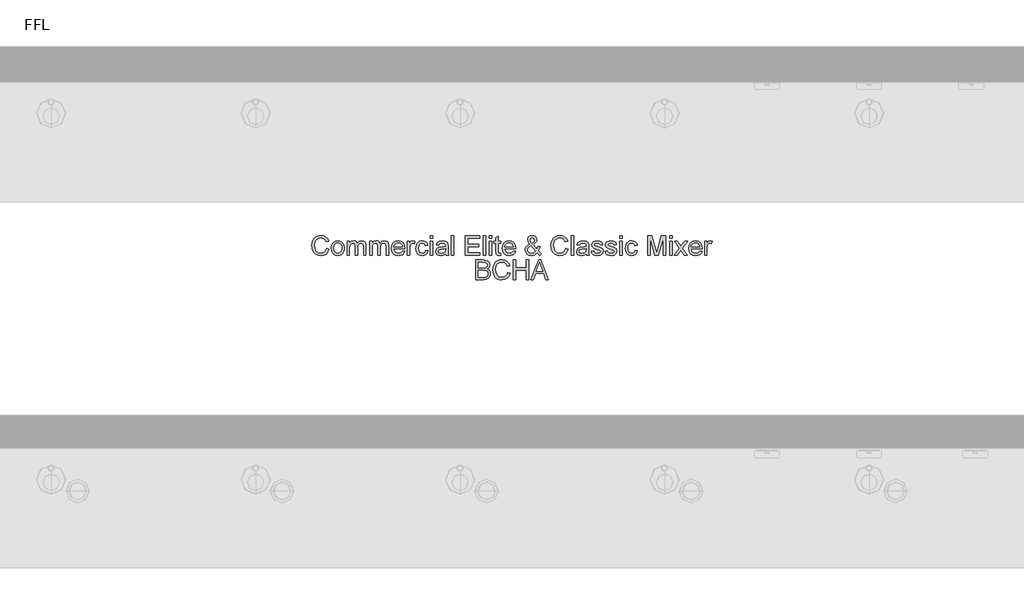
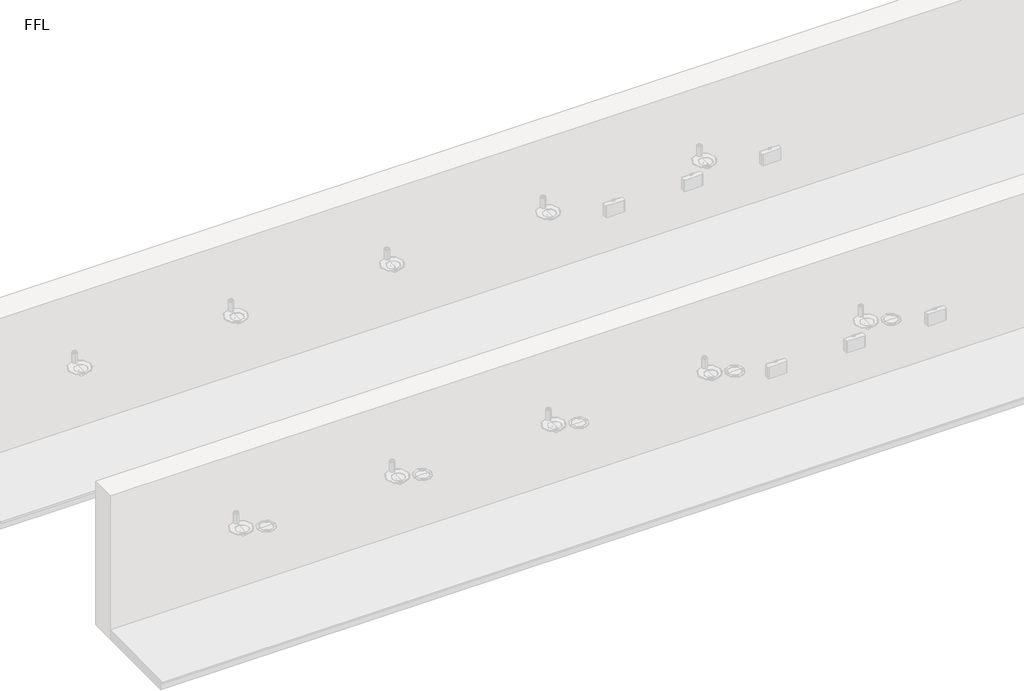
# One storey, part 4 of 13: 1 proxy.
"""IFC4 building model written with IfcOpenShell, lengths in millimetres."""

import ifcopenshell
import ifcopenshell.guid

model = None  # the IFC model being written
_history = None  # IfcOwnerHistory: only IFC2X3 demands one
_inside = {}  # id of a spatial element -> (the spatial element, [elements in it])
_under = {}  # id of a project, library or spatial element -> (it, [spatial elements below it])
_declared = {}  # id of a project -> (the project, [libraries it declares])
_typed = {}  # id of a type object -> (the type object, [elements of that type])
_made_of = {}  # id of a material, layer set ... -> (it, [elements and type objects made of it])


def new_model(schema):
    """Start an empty IFC model of exactly this schema.

    Asked for "IFC4X3", IfcOpenShell would pick the latest addendum, in which some entities
    have other attributes; the version numbers below select the first issue.
    IFC2X3 requires an IfcOwnerHistory on every rooted entity: one is made here for all.
    """
    global model, _history
    if schema == "IFC4X3":
        model = ifcopenshell.file(schema_version=(4, 3, 0, 0))
    else:
        model = ifcopenshell.file(schema=schema)
    _inside.clear()
    _under.clear()
    _declared.clear()
    _typed.clear()
    _made_of.clear()
    _history = None
    if model.schema == "IFC2X3":
        org = make("IfcOrganization", Name="unknown")
        user = make(
            "IfcPersonAndOrganization",
            ThePerson=make("IfcPerson", FamilyName="unknown"),
            TheOrganization=org,
        )
        app = make(
            "IfcApplication",
            ApplicationDeveloper=org,
            Version="unknown",
            ApplicationFullName="unknown",
            ApplicationIdentifier="unknown",
        )
        _history = make(
            "IfcOwnerHistory",
            OwningUser=user,
            OwningApplication=app,
            ChangeAction="ADDED",
            CreationDate=0,
        )
    return model


def make(cls, **values):
    """One entity of the class cls with the attributes given. An attribute that is None is left unset."""
    return model.create_entity(
        cls, **{name: value for name, value in values.items() if value is not None}
    )


def rooted(cls, **values):
    """An entity with a GlobalId (a new one), such as an element, a storey or a relation."""
    return make(cls, GlobalId=ifcopenshell.guid.new(), OwnerHistory=_history, **values)


def si_unit(unit_type, name, prefix=None):
    """IfcSIUnit, for example si_unit("LENGTHUNIT", "METRE", prefix="MILLI")."""
    return make("IfcSIUnit", UnitType=unit_type, Prefix=prefix, Name=name)


def assignment(units):
    """IfcUnitAssignment: the units of a project."""
    return None if units is None else make("IfcUnitAssignment", Units=units)


def point(xyz):
    """IfcCartesianPoint."""
    return None if xyz is None else make("IfcCartesianPoint", Coordinates=xyz)


def direction(xyz):
    """IfcDirection."""
    return None if xyz is None else make("IfcDirection", DirectionRatios=xyz)


def frame(location, z_axis=None, x_axis=None):
    """IfcAxis2Placement3D, a coordinate frame: its origin and axes. An axis left out is left unset."""
    return make(
        "IfcAxis2Placement3D",
        Location=point(location),
        Axis=direction(z_axis),
        RefDirection=direction(x_axis),
    )


def origin():
    """The frame at (0, 0, 0) with its axes left unset."""
    return frame((0.0, 0.0, 0.0))


def origin_with_axes():
    """The frame at (0, 0, 0) with the z axis (0, 0, 1) and the x axis (1, 0, 0) written out."""
    return frame((0.0, 0.0, 0.0), z_axis=(0.0, 0.0, 1.0), x_axis=(1.0, 0.0, 0.0))


def place(relative_to, where):
    """IfcLocalPlacement: puts the frame where relative to a parent placement (None: the world)."""
    return make(
        "IfcLocalPlacement", PlacementRelTo=relative_to, RelativePlacement=where
    )


def context(
    kind, dimensions, precision=None, world=None, true_north=None, identifier=None
):
    """IfcGeometricRepresentationContext, for example the 3D "Model" context."""
    return make(
        "IfcGeometricRepresentationContext",
        ContextIdentifier=identifier,
        ContextType=kind,
        CoordinateSpaceDimension=dimensions,
        Precision=precision,
        WorldCoordinateSystem=world,
        TrueNorth=true_north,
    )


def project(units=None, contexts=None):
    """IfcProject with its units and contexts."""
    return rooted(
        "IfcProject",
        Name="project",
        RepresentationContexts=contexts,
        UnitsInContext=assignment(units),
    )


def spatial(cls, under=None, at=None, **own):
    """A site, building, storey or space (cls), placed at a placement, below another one or the project."""
    s = rooted(cls, ObjectPlacement=at, **own)
    if under is not None:
        _under.setdefault(under.id(), (under, []))[1].append(s)
    return s


def polyline(points):
    """IfcPolyline through the points."""
    return make("IfcPolyline", Points=[point(p) for p in points])


def outline(outer, holes=None, kind="AREA"):
    """IfcArbitraryClosedProfileDef: a profile drawn as a closed curve; with holes, ...WithVoids."""
    if holes is None:
        return make("IfcArbitraryClosedProfileDef", ProfileType=kind, OuterCurve=outer)
    return make(
        "IfcArbitraryProfileDefWithVoids",
        ProfileType=kind,
        OuterCurve=outer,
        InnerCurves=holes,
    )


def extrude(swept, where, along, depth):
    """IfcExtrudedAreaSolid: the profile swept, set in the frame where, extruded along a direction by depth."""
    return make(
        "IfcExtrudedAreaSolid",
        SweptArea=swept,
        Position=where,
        ExtrudedDirection=direction(along),
        Depth=depth,
    )


def shape(context_of_items, identifier, shape_type, items):
    """IfcShapeRepresentation: the items that make up one representation, for example the "Body"."""
    return make(
        "IfcShapeRepresentation",
        ContextOfItems=context_of_items,
        RepresentationIdentifier=identifier,
        RepresentationType=shape_type,
        Items=items,
    )


def made_of(thing, what):
    """Note that an element or type object is made of a material, layer set ...; save() writes the relation."""
    if what is not None:
        _made_of.setdefault(what.id(), (what, []))[1].append(thing)
    return thing


def element(
    cls,
    number,
    at=None,
    inside=None,
    cuts=None,
    type_object=None,
    material=None,
    context=None,
    identifier="Body",
    shape_type=None,
    held_by="IfcProductDefinitionShape",
    body=None,
    shapes=None,
    **own,
):
    """One element of the class cls, such as IfcWall. Its Tag is "e" and its number.

    at: its placement. inside: the storey or other place that contains it. cuts: it is an
    opening in that element (IfcRelVoidsElement). A single representation is given by context,
    identifier, shape_type and body (its items); several are given by shapes. held_by: the class
    of the entity that holds the representations. save() writes the other relations.
    """
    e = rooted(cls, Tag="e%d" % number, ObjectPlacement=at, **own)
    if body is not None:
        shapes = [shape(context, identifier, shape_type, body)]
    if shapes is not None:
        e.Representation = make(held_by, Representations=shapes)
    if inside is not None:
        _inside.setdefault(inside.id(), (inside, []))[1].append(e)
    if cuts is not None:
        rooted(
            "IfcRelVoidsElement", RelatingBuildingElement=cuts, RelatedOpeningElement=e
        )
    if type_object is not None:
        _typed.setdefault(type_object.id(), (type_object, []))[1].append(e)
    return made_of(e, material)


def aggregate(whole, parts):
    """IfcRelAggregates: a whole, such as a stair, and the parts it consists of."""
    return rooted("IfcRelAggregates", RelatingObject=whole, RelatedObjects=parts)


def save(model, path):
    """Write the relations noted so far, then the file.

    IfcRelAggregates (storeys below a building ...), IfcRelContainedInSpatialStructure (elements
    in a storey), IfcRelDefinesByType, IfcRelAssociatesMaterial and IfcRelDeclares: one each for
    every whole, place, type object, material and project.
    """
    for whole, parts in _under.values():
        aggregate(whole, parts)
    for where, things in _inside.values():
        rooted(
            "IfcRelContainedInSpatialStructure",
            RelatedElements=things,
            RelatingStructure=where,
        )
    for kind, things in _typed.values():
        rooted("IfcRelDefinesByType", RelatedObjects=things, RelatingType=kind)
    for what, things in _made_of.values():
        rooted("IfcRelAssociatesMaterial", RelatedObjects=things, RelatingMaterial=what)
    for by, libraries in _declared.values():
        rooted("IfcRelDeclares", RelatingContext=by, RelatedDefinitions=libraries)
    model.write(path)


model = new_model("IFC4")

# Units and contexts
model_context = context("Model", 3, world=origin())
ifc_project = project(units=[si_unit("LENGTHUNIT", "METRE", prefix="MILLI")], contexts=[model_context])

# Site, building, storey
site = spatial("IfcSite", under=ifc_project)
building = spatial("IfcBuilding", under=site)
storey = spatial("IfcBuildingStorey", under=building, Name="FFL", Elevation=0.0)

# Proxy
placement = place(None, origin())
element("IfcBuildingElementProxy", 1, Name="150mm Arial", ObjectType="150mm Arial", at=placement, inside=storey, context=model_context, shape_type="SweptSolid", body=[
    extrude(outline(polyline([(-3737.4276006, -1683.6981691), (-3718.9660621, -1688.4577845), (-3727.4846919, -1709.9707052), (-3740.8530813, -1725.6873518), (-3758.4131775, -1735.301234), (-3779.5069275, -1738.5058614), (-3800.9206895, -1736.0809816), (-3817.9263986, -1728.8063422), (-3830.9612544, -1716.934347), (-3840.4624563, -1700.7173999), (-3846.2632376, -1681.6518951), (-3848.1968313, -1661.2342268), (-3846.0108337, -1639.6987701), (-3839.4528409, -1621.1020153), (-3828.865401, -1606.0344071), (-3814.5910621, -1595.0863903), (-3797.6619756, -1588.4202244), (-3779.1102929, -1586.1981691), (-3758.8684059, -1589.0737701), (-3742.1331294, -1597.700573), (-3729.4273001, -1611.5467268), (-3721.2737544, -1630.0803807), (-3739.7352929, -1634.4794191), (-3746.1355333, -1621.0163783), (-3754.8795236, -1611.7811018), (-3766.0754371, -1606.4400561), (-3779.8314467, -1604.6597076), (-3795.6878169, -1606.6338662), (-3808.7136583, -1612.5563422), (-3818.5979732, -1621.8051403), (-3825.029764, -1633.7582653), (-3829.7352929, -1661.1981691), (-3824.1643794, -1693.0010537), (-3817.0429852, -1704.8775561), (-3806.8206294, -1713.3195633), (-3794.5655212, -1718.3631331), (-3781.3458698, -1720.044323), (-3765.9357135, -1717.7546595), (-3753.0946679, -1710.8856691), (-3743.3996559, -1699.5094672), (-3737.4276006, -1683.6981691)])), origin_with_axes(), (0.0, 0.0, 1.0), 5.0),
    extrude(outline(polyline([(-3700.5045236, -1681.9673999), (-3696.5111342, -1655.8165585), (-3684.5309659, -1637.4361499), (-3669.7292833, -1628.4307412), (-3652.0069275, -1625.4289383), (-3632.6123962, -1629.0842869), (-3617.1211102, -1640.0503326), (-3606.9663626, -1657.4616908), (-3603.5814467, -1680.4529768), (-3605.0778409, -1699.1038182), (-3609.5670236, -1713.3015345), (-3616.9182857, -1723.9340465), (-3627.0009179, -1731.8892749), (-3638.9765789, -1736.8517148), (-3652.0069275, -1738.5058614), (-3671.6358337, -1734.8640345), (-3687.1090909, -1723.9385537), (-3697.1556655, -1706.1621114), (-3700.5045236, -1681.9673999)]), holes=[polyline([(-3682.0429852, -1681.9313422), (-3679.9065669, -1698.6395754), (-3673.4973121, -1710.543121), (-3663.8518794, -1717.6690225), (-3652.0069275, -1720.044323), (-3640.2160621, -1717.6555008), (-3630.5886583, -1710.4890345), (-3624.1794034, -1698.4277364), (-3622.0429852, -1681.3544191), (-3624.1929251, -1665.1329648), (-3630.6427448, -1653.3916787), (-3640.2836703, -1646.2657773), (-3652.0069275, -1643.8904768), (-3663.8518794, -1646.2567629), (-3673.4973121, -1653.355621), (-3679.9065669, -1665.2321234), (-3682.0429852, -1681.9313422)])]), origin_with_axes(), (0.0, 0.0, 1.0), 5.0),
    extrude(outline(polyline([(-3582.8122159, -1736.1981691), (-3582.8122159, -1627.7366307), (-3564.3506775, -1627.7366307), (-3564.3506775, -1645.5851883), (-3551.6583698, -1630.9637941), (-3533.5934659, -1625.4289383), (-3523.3260381, -1626.8396956), (-3515.0958698, -1631.0719672), (-3504.9276006, -1646.8832653), (-3490.5225525, -1630.7925201), (-3472.3314467, -1625.4289383), (-3458.4537424, -1627.6600081), (-3448.1908217, -1634.3532172), (-3441.8491751, -1645.6888542), (-3439.7352929, -1661.8472076), (-3439.7352929, -1736.1981691), (-3458.1968313, -1736.1981691), (-3458.1968313, -1669.7798999), (-3459.9095717, -1654.3652364), (-3466.1114948, -1646.7750922), (-3476.6583698, -1643.8904768), (-3486.6598722, -1645.7384335), (-3494.8134179, -1651.2823037), (-3500.2355934, -1660.9006932), (-3502.0429852, -1674.9722076), (-3502.0429852, -1736.1981691), (-3520.5045236, -1736.1981691), (-3520.5045236, -1667.7246114), (-3524.7773602, -1649.839996), (-3530.4158818, -1645.3778566), (-3538.7857736, -1643.8904768), (-3552.451639, -1647.856823), (-3561.5381775, -1659.4673999), (-3564.3506775, -1681.4986499), (-3564.3506775, -1736.1981691), (-3582.8122159, -1736.1981691)])), origin_with_axes(), (0.0, 0.0, 1.0), 5.0),
    extrude(outline(polyline([(-3412.0429852, -1736.1981691), (-3412.0429852, -1627.7366307), (-3393.5814467, -1627.7366307), (-3393.5814467, -1645.5851883), (-3380.889139, -1630.9637941), (-3362.8242352, -1625.4289383), (-3352.5568073, -1626.8396956), (-3344.326639, -1631.0719672), (-3334.1583698, -1646.8832653), (-3319.7533217, -1630.7925201), (-3301.5622159, -1625.4289383), (-3287.6845116, -1627.6600081), (-3277.4215909, -1634.3532172), (-3271.0799443, -1645.6888542), (-3268.9660621, -1661.8472076), (-3268.9660621, -1736.1981691), (-3287.4276006, -1736.1981691), (-3287.4276006, -1669.7798999), (-3289.1403409, -1654.3652364), (-3295.342264, -1646.7750922), (-3305.889139, -1643.8904768), (-3315.8906414, -1645.7384335), (-3324.0441871, -1651.2823037), (-3329.4663626, -1660.9006932), (-3331.2737544, -1674.9722076), (-3331.2737544, -1736.1981691), (-3349.7352929, -1736.1981691), (-3349.7352929, -1667.7246114), (-3354.0081294, -1649.839996), (-3359.646651, -1645.3778566), (-3368.0165429, -1643.8904768), (-3381.6824083, -1647.856823), (-3390.7689467, -1659.4673999), (-3393.5814467, -1681.4986499), (-3393.5814467, -1736.1981691), (-3412.0429852, -1736.1981691)])), origin_with_axes(), (0.0, 0.0, 1.0), 5.0),
    extrude(outline(polyline([(-3165.3362544, -1703.8904768), (-3147.2352929, -1706.1981691), (-3153.757228, -1719.8369912), (-3164.1643794, -1730.0323037), (-3178.2223722, -1736.387472), (-3195.6968313, -1738.5058614), (-3217.35849, -1734.8505129), (-3234.0261583, -1723.8844672), (-3244.6541631, -1706.3198638), (-3248.1968313, -1682.8688422), (-3244.6181054, -1658.6290585), (-3233.8819275, -1640.5010537), (-3217.4396198, -1629.1969672), (-3196.7425044, -1625.4289383), (-3176.6899203, -1629.1879528), (-3160.6667833, -1640.464996), (-3150.1604732, -1658.5569432), (-3146.6583698, -1682.7606691), (-3146.7665429, -1687.7366307), (-3229.7352929, -1687.7366307), (-3226.5396799, -1701.5557412), (-3219.1163025, -1711.714996), (-3208.4026607, -1717.9619912), (-3195.3362544, -1720.044323), (-3177.2352929, -1716.1861499), (-3165.3362544, -1703.8904768)]), holes=[polyline([(-3229.7352929, -1669.2750922), (-3165.1199083, -1669.2750922), (-3167.6169034, -1659.5214864), (-3172.5117352, -1652.544323), (-3183.2749563, -1646.0539383), (-3196.8146198, -1643.8904768), (-3209.2590309, -1645.6167388), (-3219.5489948, -1650.7955249), (-3226.7019395, -1658.8679408), (-3229.7352929, -1669.2750922)])]), origin_with_axes(), (0.0, 0.0, 1.0), 5.0),
    extrude(outline(polyline([(-3128.1968313, -1736.1981691), (-3128.1968313, -1627.7366307), (-3112.0429852, -1627.7366307), (-3112.0429852, -1643.7823037), (-3100.576639, -1628.9986499), (-3089.0381775, -1625.4289383), (-3070.5045236, -1631.1260537), (-3076.670389, -1647.6765345), (-3089.6511583, -1643.8904768), (-3100.0898602, -1647.5323037), (-3106.7425044, -1657.6284576), (-3109.7352929, -1679.1909576), (-3109.7352929, -1736.1981691), (-3128.1968313, -1736.1981691)])), origin_with_axes(), (0.0, 0.0, 1.0), 5.0),
    extrude(outline(polyline([(-2989.7352929, -1696.9673999), (-2971.2737544, -1699.2750922), (-2976.42099, -1715.6948638), (-2986.0934659, -1728.1032172), (-2999.3807256, -1735.9052004), (-3015.3723121, -1738.5058614), (-3035.0102328, -1734.8775561), (-3050.3663025, -1723.9926403), (-3060.2776607, -1706.3288783), (-3063.5814467, -1682.3640345), (-3057.9384179, -1651.6969672), (-3050.8170236, -1640.1990706), (-3040.7388986, -1631.9914383), (-3028.6821078, -1627.0695633), (-3015.6247159, -1625.4289383), (-3000.0252568, -1627.6825441), (-2987.5538025, -1634.4433614), (-2978.6069876, -1645.3508133), (-2973.5814467, -1660.044323), (-2992.0429852, -1662.3520153), (-3000.6066871, -1648.5238903), (-3015.4804852, -1643.8904768), (-3027.4110741, -1646.1711258), (-3036.8807256, -1653.013073), (-3043.0601126, -1664.7859095), (-3045.1199083, -1681.8592268), (-3043.1051847, -1699.1624119), (-3037.061014, -1710.9758133), (-3027.7626366, -1717.7771956), (-3015.9852929, -1720.044323), (-3006.4254972, -1718.6290585), (-2998.5874563, -1714.3832653), (-2992.8858337, -1707.1987701), (-2989.7352929, -1696.9673999)])), origin_with_axes(), (0.0, 0.0, 1.0), 5.0),
    extrude(outline(polyline([(-2955.1199083, -1606.9673999), (-2955.1199083, -1588.5058614), (-2936.6583698, -1588.5058614), (-2936.6583698, -1606.9673999), (-2955.1199083, -1606.9673999)])), origin_with_axes(), (0.0, 0.0, 1.0), 5.0),
    extrude(outline(polyline([(-2955.1199083, -1736.1981691), (-2955.1199083, -1627.7366307), (-2936.6583698, -1627.7366307), (-2936.6583698, -1736.1981691), (-2955.1199083, -1736.1981691)])), origin_with_axes(), (0.0, 0.0, 1.0), 5.0),
    extrude(outline(polyline([(-2839.7352929, -1722.3520153), (-2857.6379371, -1734.8640345), (-2877.4155813, -1738.5058614), (-2892.8437664, -1736.3153566), (-2904.2244756, -1729.7438422), (-2911.2422039, -1719.7648758), (-2913.5814467, -1707.3520153), (-2910.0477929, -1692.7486499), (-2900.7629371, -1682.1476883), (-2887.8362544, -1676.089996), (-2871.8626967, -1673.3135537), (-2839.8434659, -1666.9673999), (-2839.7352929, -1662.856823), (-2841.0063265, -1654.6176403), (-2844.8194275, -1649.2270153), (-2853.3470717, -1645.2246114), (-2865.2280813, -1643.8904768), (-2883.9059659, -1647.4421595), (-2892.8122159, -1660.044323), (-2911.2737544, -1657.7366307), (-2903.2869756, -1639.7077845), (-2887.2052448, -1629.1428807), (-2862.8482736, -1625.4289383), (-2840.4744756, -1628.7101883), (-2827.8362544, -1636.949371), (-2822.1751967, -1649.4794191), (-2821.2737544, -1665.6332653), (-2821.2737544, -1688.6020153), (-2820.3362544, -1720.6753326), (-2816.6583698, -1736.1981691), (-2835.1199083, -1736.1981691), (-2839.7352929, -1722.3520153)]), holes=[polyline([(-2839.7352929, -1685.4289383), (-2869.5189467, -1691.089996), (-2885.4023602, -1694.0827845), (-2892.5958698, -1698.950573), (-2895.1199083, -1706.0539383), (-2889.6211102, -1716.0419191), (-2873.4852929, -1720.044323), (-2854.8074083, -1715.6272557), (-2842.764139, -1704.9361499), (-2839.8434659, -1690.6573037), (-2839.7352929, -1685.4289383)])]), origin_with_axes(), (0.0, 0.0, 1.0), 5.0),
    extrude(outline(polyline([(-2795.889139, -1736.1981691), (-2795.889139, -1588.5058614), (-2777.4276006, -1588.5058614), (-2777.4276006, -1736.1981691), (-2795.889139, -1736.1981691)])), origin_with_axes(), (0.0, 0.0, 1.0), 5.0),
    extrude(outline(polyline([(-2689.7352929, -1736.1981691), (-2689.7352929, -1588.5058614), (-2583.5814467, -1588.5058614), (-2583.5814467, -1606.9673999), (-2671.2737544, -1606.9673999), (-2671.2737544, -1650.8135537), (-2588.1968313, -1650.8135537), (-2588.1968313, -1669.2750922), (-2671.2737544, -1669.2750922), (-2671.2737544, -1717.7366307), (-2581.2737544, -1717.7366307), (-2581.2737544, -1736.1981691), (-2689.7352929, -1736.1981691)])), origin_with_axes(), (0.0, 0.0, 1.0), 5.0),
    extrude(outline(polyline([(-2555.889139, -1736.1981691), (-2555.889139, -1588.5058614), (-2537.4276006, -1588.5058614), (-2537.4276006, -1736.1981691), (-2555.889139, -1736.1981691)])), origin_with_axes(), (0.0, 0.0, 1.0), 5.0),
    extrude(outline(polyline([(-2509.7352929, -1736.1981691), (-2509.7352929, -1627.7366307), (-2491.2737544, -1627.7366307), (-2491.2737544, -1736.1981691), (-2509.7352929, -1736.1981691)])), origin_with_axes(), (0.0, 0.0, 1.0), 5.0),
    extrude(outline(polyline([(-2509.7352929, -1606.9673999), (-2509.7352929, -1588.5058614), (-2491.2737544, -1588.5058614), (-2491.2737544, -1606.9673999), (-2509.7352929, -1606.9673999)])), origin_with_axes(), (0.0, 0.0, 1.0), 5.0),
    extrude(outline(polyline([(-2424.3506775, -1720.8015345), (-2422.0429852, -1736.7390345), (-2435.8530813, -1738.5058614), (-2451.3218313, -1735.4409576), (-2459.0381775, -1727.4000922), (-2461.2737544, -1706.450573), (-2461.2737544, -1646.1981691), (-2475.1199083, -1646.1981691), (-2475.1199083, -1627.7366307), (-2461.2737544, -1627.7366307), (-2461.2737544, -1601.3784576), (-2442.8122159, -1590.5250922), (-2442.8122159, -1627.7366307), (-2424.3506775, -1627.7366307), (-2424.3506775, -1646.1981691), (-2442.8122159, -1646.1981691), (-2442.8122159, -1705.9097076), (-2441.8386583, -1715.4289383), (-2438.6836102, -1718.8003326), (-2432.3915429, -1720.044323), (-2424.3506775, -1720.8015345)])), origin_with_axes(), (0.0, 0.0, 1.0), 5.0),
    extrude(outline(polyline([(-2329.951639, -1703.8904768), (-2311.8506775, -1706.1981691), (-2318.3726126, -1719.8369912), (-2328.779764, -1730.0323037), (-2342.8377568, -1736.387472), (-2360.3122159, -1738.5058614), (-2381.9738746, -1734.8505129), (-2398.6415429, -1723.8844672), (-2409.2695477, -1706.3198638), (-2412.8122159, -1682.8688422), (-2409.23349, -1658.6290585), (-2398.4973121, -1640.5010537), (-2382.0550044, -1629.1969672), (-2361.357889, -1625.4289383), (-2341.3053049, -1629.1879528), (-2325.2821679, -1640.464996), (-2314.7758578, -1658.5569432), (-2311.2737544, -1682.7606691), (-2311.3819275, -1687.7366307), (-2394.3506775, -1687.7366307), (-2391.1550645, -1701.5557412), (-2383.7316871, -1711.714996), (-2373.0180453, -1717.9619912), (-2359.951639, -1720.044323), (-2341.8506775, -1716.1861499), (-2329.951639, -1703.8904768)]), holes=[polyline([(-2394.3506775, -1669.2750922), (-2329.7352929, -1669.2750922), (-2332.2322881, -1659.5214864), (-2337.1271198, -1652.544323), (-2347.8903409, -1646.0539383), (-2361.4300044, -1643.8904768), (-2373.8744155, -1645.6167388), (-2384.1643794, -1650.7955249), (-2391.3173241, -1658.8679408), (-2394.3506775, -1669.2750922)])]), origin_with_axes(), (0.0, 0.0, 1.0), 5.0),
    extrude(outline(polyline([(-2150.420389, -1717.9529768), (-2169.9997159, -1733.3676403), (-2192.8963506, -1738.5058614), (-2213.2689467, -1734.7017749), (-2228.9540429, -1723.2895153), (-2237.0399804, -1710.1555008), (-2239.7352929, -1695.5611499), (-2237.5673241, -1682.6254528), (-2231.0634179, -1671.0058614), (-2220.2506174, -1660.7113903), (-2205.1559659, -1651.7510537), (-2218.0465909, -1633.0731691), (-2221.2737544, -1619.2270153), (-2218.7316871, -1606.7600682), (-2211.1054852, -1596.0419191), (-2199.6301246, -1588.6591066), (-2185.5405813, -1586.1981691), (-2172.1361342, -1588.5509335), (-2161.4179852, -1595.6092268), (-2154.3867352, -1605.9667989), (-2152.0429852, -1618.2173999), (-2153.7782616, -1628.5028566), (-2158.9840909, -1638.013073), (-2179.8074083, -1654.7077845), (-2153.0886583, -1687.9890345), (-2145.1199083, -1667.544323), (-2126.6583698, -1671.5467268), (-2139.7112544, -1701.9433614), (-2117.4276006, -1724.2991307), (-2131.2737544, -1738.5058614), (-2150.420389, -1717.9529768)]), holes=[polyline([(-2189.1463506, -1643.0611499), (-2173.9660621, -1631.6128326), (-2170.5045236, -1620.7414383), (-2175.0658217, -1609.1488903), (-2186.4780813, -1604.6597076), (-2198.1427448, -1609.1128326), (-2202.8122159, -1619.9842268), (-2201.2256775, -1626.7450441), (-2196.4300044, -1634.263073), (-2189.1463506, -1643.0611499)]), polyline([(-2162.7881775, -1704.6476883), (-2195.7449083, -1663.5058614), (-2216.0273602, -1678.9746114), (-2221.2737544, -1693.1092268), (-2219.4798842, -1701.8171595), (-2214.0982736, -1710.8496114), (-2205.4263986, -1717.7456451), (-2193.7617352, -1720.044323), (-2176.7965909, -1715.7534576), (-2162.7881775, -1704.6476883)])]), origin_with_axes(), (0.0, 0.0, 1.0), 5.0),
    extrude(outline(polyline([(-1935.1199083, -1683.6981691), (-1916.6583698, -1688.4577845), (-1925.1769996, -1709.9707052), (-1938.545389, -1725.6873518), (-1956.1054852, -1735.301234), (-1977.1992352, -1738.5058614), (-1998.6129972, -1736.0809816), (-2015.6187063, -1728.8063422), (-2028.6535621, -1716.934347), (-2038.154764, -1700.7173999), (-2043.9555453, -1681.6518951), (-2045.889139, -1661.2342268), (-2043.7031414, -1639.6987701), (-2037.1451486, -1621.1020153), (-2026.5577087, -1606.0344071), (-2012.2833698, -1595.0863903), (-1995.3542833, -1588.4202244), (-1976.8026006, -1586.1981691), (-1956.5607135, -1589.0737701), (-1939.8254371, -1597.700573), (-1927.1196078, -1611.5467268), (-1918.9660621, -1630.0803807), (-1937.4276006, -1634.4794191), (-1943.8278409, -1621.0163783), (-1952.5718313, -1611.7811018), (-1963.7677448, -1606.4400561), (-1977.5237544, -1604.6597076), (-1993.3801246, -1606.6338662), (-2006.4059659, -1612.5563422), (-2016.2902809, -1621.8051403), (-2022.7220717, -1633.7582653), (-2027.4276006, -1661.1981691), (-2021.8566871, -1693.0010537), (-2014.7352929, -1704.8775561), (-2004.5129371, -1713.3195633), (-1992.2578289, -1718.3631331), (-1979.0381775, -1720.044323), (-1963.6280212, -1717.7546595), (-1950.7869756, -1710.8856691), (-1941.0919635, -1699.5094672), (-1935.1199083, -1683.6981691)])), origin_with_axes(), (0.0, 0.0, 1.0), 5.0),
    extrude(outline(polyline([(-1893.5814467, -1736.1981691), (-1893.5814467, -1588.5058614), (-1875.1199083, -1588.5058614), (-1875.1199083, -1736.1981691), (-1893.5814467, -1736.1981691)])), origin_with_axes(), (0.0, 0.0, 1.0), 5.0),
    extrude(outline(polyline([(-1778.1968313, -1722.3520153), (-1796.0994756, -1734.8640345), (-1815.8771198, -1738.5058614), (-1831.3053049, -1736.3153566), (-1842.686014, -1729.7438422), (-1849.7037424, -1719.7648758), (-1852.0429852, -1707.3520153), (-1848.5093313, -1692.7486499), (-1839.2244756, -1682.1476883), (-1826.2977929, -1676.089996), (-1810.3242352, -1673.3135537), (-1778.3050044, -1666.9673999), (-1778.1968313, -1662.856823), (-1779.467865, -1654.6176403), (-1783.2809659, -1649.2270153), (-1791.8086102, -1645.2246114), (-1803.6896198, -1643.8904768), (-1822.3675044, -1647.4421595), (-1831.2737544, -1660.044323), (-1849.7352929, -1657.7366307), (-1841.748514, -1639.7077845), (-1825.6667833, -1629.1428807), (-1801.3098121, -1625.4289383), (-1778.936014, -1628.7101883), (-1766.2977929, -1636.949371), (-1760.6367352, -1649.4794191), (-1759.7352929, -1665.6332653), (-1759.7352929, -1688.6020153), (-1758.7977929, -1720.6753326), (-1755.1199083, -1736.1981691), (-1773.5814467, -1736.1981691), (-1778.1968313, -1722.3520153)]), holes=[polyline([(-1778.1968313, -1685.4289383), (-1807.9804852, -1691.089996), (-1823.8638986, -1694.0827845), (-1831.0574083, -1698.950573), (-1833.5814467, -1706.0539383), (-1828.0826486, -1716.0419191), (-1811.9468313, -1720.044323), (-1793.2689467, -1715.6272557), (-1781.2256775, -1704.9361499), (-1778.3050044, -1690.6573037), (-1778.1968313, -1685.4289383)])]), origin_with_axes(), (0.0, 0.0, 1.0), 5.0),
    extrude(outline(polyline([(-1741.2737544, -1703.8904768), (-1722.8122159, -1701.5827845), (-1719.9005573, -1709.4794191), (-1714.2665429, -1715.2847076), (-1694.6872159, -1720.044323), (-1675.8651006, -1715.6813422), (-1669.7352929, -1705.4409576), (-1675.9011583, -1697.1476883), (-1694.9035621, -1691.8832653), (-1722.7040429, -1682.8508133), (-1734.8374563, -1672.3039383), (-1738.9660621, -1657.4121114), (-1735.6487544, -1643.6561018), (-1726.5982736, -1633.1452845), (-1714.8614948, -1627.6825441), (-1698.9780813, -1625.4289383), (-1676.514139, -1629.0527364), (-1662.2352929, -1638.8604287), (-1655.889139, -1655.4289383), (-1674.3506775, -1657.7366307), (-1681.2917833, -1647.5503326), (-1697.5357736, -1643.8904768), (-1715.2040429, -1647.388073), (-1720.5045236, -1655.5371114), (-1718.3050044, -1660.9097076), (-1711.4179852, -1664.9842268), (-1695.5165429, -1668.9145153), (-1668.4191871, -1677.6044191), (-1655.8350525, -1687.4481691), (-1651.2737544, -1703.4938422), (-1656.6283217, -1721.1621114), (-1672.0790429, -1733.980621), (-1694.9396198, -1738.5058614), (-1713.5544034, -1736.324371), (-1727.139139, -1729.7798999), (-1736.2076486, -1718.9445633), (-1741.2737544, -1703.8904768)])), origin_with_axes(), (0.0, 0.0, 1.0), 5.0),
    extrude(outline(polyline([(-1637.4276006, -1703.8904768), (-1618.9660621, -1701.5827845), (-1616.0544034, -1709.4794191), (-1610.420389, -1715.2847076), (-1590.8410621, -1720.044323), (-1572.0189467, -1715.6813422), (-1565.889139, -1705.4409576), (-1572.0550044, -1697.1476883), (-1591.0574083, -1691.8832653), (-1618.857889, -1682.8508133), (-1630.9913025, -1672.3039383), (-1635.1199083, -1657.4121114), (-1631.8026006, -1643.6561018), (-1622.7521198, -1633.1452845), (-1611.0153409, -1627.6825441), (-1595.1319275, -1625.4289383), (-1572.6679852, -1629.0527364), (-1558.389139, -1638.8604287), (-1552.0429852, -1655.4289383), (-1570.5045236, -1657.7366307), (-1577.4456294, -1647.5503326), (-1593.6896198, -1643.8904768), (-1611.357889, -1647.388073), (-1616.6583698, -1655.5371114), (-1614.4588506, -1660.9097076), (-1607.5718313, -1664.9842268), (-1591.670389, -1668.9145153), (-1564.5730333, -1677.6044191), (-1551.9888986, -1687.4481691), (-1547.4276006, -1703.4938422), (-1552.7821679, -1721.1621114), (-1568.232889, -1733.980621), (-1591.0934659, -1738.5058614), (-1609.7082496, -1736.324371), (-1623.2929852, -1729.7798999), (-1632.3614948, -1718.9445633), (-1637.4276006, -1703.8904768)])), origin_with_axes(), (0.0, 0.0, 1.0), 5.0),
    extrude(outline(polyline([(-1526.6583698, -1736.1981691), (-1526.6583698, -1627.7366307), (-1508.1968313, -1627.7366307), (-1508.1968313, -1736.1981691), (-1526.6583698, -1736.1981691)])), origin_with_axes(), (0.0, 0.0, 1.0), 5.0),
    extrude(outline(polyline([(-1526.6583698, -1606.9673999), (-1526.6583698, -1588.5058614), (-1508.1968313, -1588.5058614), (-1508.1968313, -1606.9673999), (-1526.6583698, -1606.9673999)])), origin_with_axes(), (0.0, 0.0, 1.0), 5.0),
    extrude(outline(polyline([(-1411.2737544, -1696.9673999), (-1392.8122159, -1699.2750922), (-1397.9594515, -1715.6948638), (-1407.6319275, -1728.1032172), (-1420.9191871, -1735.9052004), (-1436.9107736, -1738.5058614), (-1456.5486943, -1734.8775561), (-1471.904764, -1723.9926403), (-1481.8161222, -1706.3288783), (-1485.1199083, -1682.3640345), (-1479.4768794, -1651.6969672), (-1472.3554852, -1640.1990706), (-1462.2773602, -1631.9914383), (-1450.2205693, -1627.0695633), (-1437.1631775, -1625.4289383), (-1421.5637184, -1627.6825441), (-1409.092264, -1634.4433614), (-1400.1454491, -1645.3508133), (-1395.1199083, -1660.044323), (-1413.5814467, -1662.3520153), (-1422.1451486, -1648.5238903), (-1437.0189467, -1643.8904768), (-1448.9495357, -1646.1711258), (-1458.4191871, -1653.013073), (-1464.5985741, -1664.7859095), (-1466.6583698, -1681.8592268), (-1464.6436462, -1699.1624119), (-1458.5994756, -1710.9758133), (-1449.3010982, -1717.7771956), (-1437.5237544, -1720.044323), (-1427.9639587, -1718.6290585), (-1420.1259179, -1714.3832653), (-1414.4242953, -1707.1987701), (-1411.2737544, -1696.9673999)])), origin_with_axes(), (0.0, 0.0, 1.0), 5.0),
    extrude(outline(polyline([(-1316.6583698, -1736.1981691), (-1316.6583698, -1588.5058614), (-1284.8915429, -1588.5058614), (-1254.6751967, -1692.6044191), (-1248.5814467, -1714.3472076), (-1241.982889, -1690.8015345), (-1212.2713506, -1588.5058614), (-1180.5045236, -1588.5058614), (-1180.5045236, -1736.1981691), (-1198.9660621, -1736.1981691), (-1198.9660621, -1606.9673999), (-1236.0694275, -1736.1981691), (-1261.0934659, -1736.1981691), (-1298.1968313, -1606.9673999), (-1298.1968313, -1736.1981691), (-1316.6583698, -1736.1981691)])), origin_with_axes(), (0.0, 0.0, 1.0), 5.0),
    extrude(outline(polyline([(-1150.5045236, -1736.1981691), (-1150.5045236, -1627.7366307), (-1132.0429852, -1627.7366307), (-1132.0429852, -1736.1981691), (-1150.5045236, -1736.1981691)])), origin_with_axes(), (0.0, 0.0, 1.0), 5.0),
    extrude(outline(polyline([(-1150.5045236, -1606.9673999), (-1150.5045236, -1588.5058614), (-1132.0429852, -1588.5058614), (-1132.0429852, -1606.9673999), (-1150.5045236, -1606.9673999)])), origin_with_axes(), (0.0, 0.0, 1.0), 5.0),
    extrude(outline(polyline([(-1115.889139, -1736.1981691), (-1076.4420236, -1681.6789383), (-1113.5814467, -1627.7366307), (-1091.3699083, -1627.7366307), (-1073.4492352, -1653.6981691), (-1065.0838506, -1665.9577845), (-1057.8362544, -1655.933746), (-1037.4276006, -1627.7366307), (-1015.2160621, -1627.7366307), (-1054.2304852, -1681.6789383), (-1016.6583698, -1736.1981691), (-1038.8699083, -1736.1981691), (-1061.4780813, -1703.4217268), (-1065.6247159, -1697.4361499), (-1093.6776006, -1736.1981691), (-1115.889139, -1736.1981691)])), origin_with_axes(), (0.0, 0.0, 1.0), 5.0),
    extrude(outline(polyline([(-924.5670236, -1703.8904768), (-906.4660621, -1706.1981691), (-912.9879972, -1719.8369912), (-923.3951486, -1730.0323037), (-937.4531414, -1736.387472), (-954.9276006, -1738.5058614), (-976.5892592, -1734.8505129), (-993.2569275, -1723.8844672), (-1003.8849323, -1706.3198638), (-1007.4276006, -1682.8688422), (-1003.8488746, -1658.6290585), (-993.1126967, -1640.5010537), (-976.670389, -1629.1969672), (-955.9732736, -1625.4289383), (-935.9206895, -1629.1879528), (-919.8975525, -1640.464996), (-909.3912424, -1658.5569432), (-905.889139, -1682.7606691), (-905.9973121, -1687.7366307), (-988.9660621, -1687.7366307), (-985.7704491, -1701.5557412), (-978.3470717, -1711.714996), (-967.6334299, -1717.9619912), (-954.5670236, -1720.044323), (-936.4660621, -1716.1861499), (-924.5670236, -1703.8904768)]), holes=[polyline([(-988.9660621, -1669.2750922), (-924.3506775, -1669.2750922), (-926.8476727, -1659.5214864), (-931.7425044, -1652.544323), (-942.5057256, -1646.0539383), (-956.045389, -1643.8904768), (-968.4898001, -1645.6167388), (-978.779764, -1650.7955249), (-985.9327087, -1658.8679408), (-988.9660621, -1669.2750922)])]), origin_with_axes(), (0.0, 0.0, 1.0), 5.0),
    extrude(outline(polyline([(-887.4276006, -1736.1981691), (-887.4276006, -1627.7366307), (-871.2737544, -1627.7366307), (-871.2737544, -1643.7823037), (-859.8074083, -1628.9986499), (-848.2689467, -1625.4289383), (-829.7352929, -1631.1260537), (-835.9011583, -1647.6765345), (-848.8819275, -1643.8904768), (-859.3206294, -1647.5323037), (-865.9732736, -1657.6284576), (-868.9660621, -1679.1909576), (-868.9660621, -1736.1981691), (-887.4276006, -1736.1981691)])), origin_with_axes(), (0.0, 0.0, 1.0), 5.0),
    extrude(outline(polyline([(-2612.4276006, -1918.5058614), (-2612.4276006, -1770.8135537), (-2556.0694275, -1770.8135537), (-2528.467264, -1775.1585057), (-2519.1914227, -1780.6708254), (-2512.1691871, -1788.5178807), (-2506.2737544, -1807.4121114), (-2511.2316871, -1824.6657172), (-2526.2136583, -1837.7366307), (-2515.7524203, -1843.199371), (-2508.0225525, -1851.5106691), (-2503.2494155, -1862.1206451), (-2501.6583698, -1874.4794191), (-2506.0033217, -1894.3291787), (-2516.7665429, -1908.4637941), (-2532.8302448, -1915.9637941), (-2556.5021198, -1918.5058614), (-2612.4276006, -1918.5058614)]), holes=[polyline([(-2593.9660621, -1830.8135537), (-2560.2521198, -1830.8135537), (-2540.5646198, -1829.2270153), (-2528.7196679, -1822.3940826), (-2524.7352929, -1810.3688422), (-2528.4492352, -1798.325573), (-2539.0862544, -1791.2041787), (-2562.8122159, -1789.2750922), (-2593.9660621, -1789.2750922), (-2593.9660621, -1830.8135537)]), polyline([(-2593.9660621, -1900.044323), (-2556.1054852, -1900.044323), (-2542.4035621, -1899.3231691), (-2530.811014, -1895.3027364), (-2523.1307256, -1887.0996114), (-2520.1199083, -1874.6597076), (-2523.6535621, -1860.308746), (-2535.1018794, -1851.7450441), (-2557.9083698, -1849.2750922), (-2593.9660621, -1849.2750922), (-2593.9660621, -1900.044323)])]), origin_with_axes(), (0.0, 0.0, 1.0), 5.0),
    extrude(outline(polyline([(-2372.4276006, -1866.0058614), (-2353.9660621, -1870.7654768), (-2362.4846919, -1892.2783975), (-2375.8530813, -1907.9950441), (-2393.4131775, -1917.6089263), (-2414.5069275, -1920.8135537), (-2435.9206895, -1918.3886739), (-2452.9263986, -1911.1140345), (-2465.9612544, -1899.2420393), (-2475.4624563, -1883.0250922), (-2481.2632376, -1863.9595874), (-2483.1968313, -1843.5419191), (-2481.0108337, -1822.0064624), (-2474.4528409, -1803.4097076), (-2463.865401, -1788.3420994), (-2449.5910621, -1777.3940826), (-2432.6619756, -1770.7279167), (-2414.1102929, -1768.5058614), (-2393.8684059, -1771.3814624), (-2377.1331294, -1780.0082653), (-2364.4273001, -1793.8544191), (-2356.2737544, -1812.388073), (-2374.7352929, -1816.7871114), (-2381.1355333, -1803.3240706), (-2389.8795236, -1794.0887941), (-2401.0754371, -1788.7477484), (-2414.8314467, -1786.9673999), (-2430.6878169, -1788.9415585), (-2443.7136583, -1794.8640345), (-2453.5979732, -1804.1128326), (-2460.029764, -1816.0659576), (-2464.7352929, -1843.5058614), (-2459.1643794, -1875.308746), (-2452.0429852, -1887.1852484), (-2441.8206294, -1895.6272557), (-2429.5655212, -1900.6708254), (-2416.3458698, -1902.3520153), (-2400.9357135, -1900.0623518), (-2388.0946679, -1893.1933614), (-2378.3996559, -1881.8171595), (-2372.4276006, -1866.0058614)])), origin_with_axes(), (0.0, 0.0, 1.0), 5.0),
    extrude(outline(polyline([(-2328.5814467, -1918.5058614), (-2328.5814467, -1770.8135537), (-2310.1199083, -1770.8135537), (-2310.1199083, -1830.8135537), (-2231.6583698, -1830.8135537), (-2231.6583698, -1770.8135537), (-2213.1968313, -1770.8135537), (-2213.1968313, -1918.5058614), (-2231.6583698, -1918.5058614), (-2231.6583698, -1849.2750922), (-2310.1199083, -1849.2750922), (-2310.1199083, -1918.5058614), (-2328.5814467, -1918.5058614)])), origin_with_axes(), (0.0, 0.0, 1.0), 5.0),
    extrude(outline(polyline([(-2198.0886583, -1918.5058614), (-2139.1343313, -1770.8135537), (-2123.4131775, -1770.8135537), (-2064.4588506, -1918.5058614), (-2083.9660621, -1918.5058614), (-2100.8771198, -1872.3520153), (-2161.7064467, -1872.3520153), (-2178.5814467, -1918.5058614), (-2198.0886583, -1918.5058614)]), holes=[polyline([(-2154.9276006, -1853.8904768), (-2107.6199083, -1853.8904768), (-2120.9251967, -1817.5803807), (-2131.2737544, -1789.2750922), (-2140.4684659, -1814.4073037), (-2154.9276006, -1853.8904768)])]), origin_with_axes(), (0.0, 0.0, 1.0), 5.0),
])

save(model, "model.ifc")
